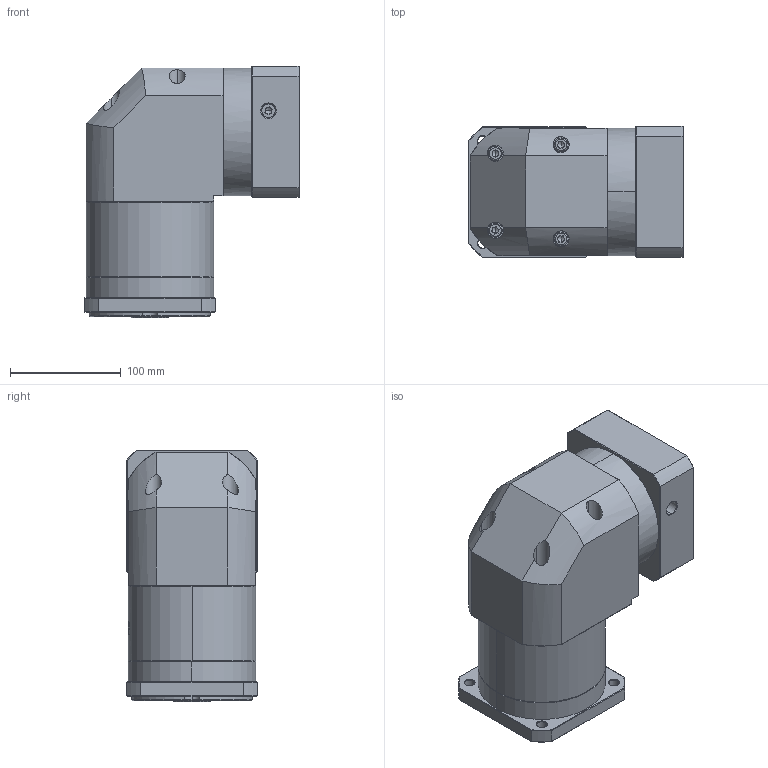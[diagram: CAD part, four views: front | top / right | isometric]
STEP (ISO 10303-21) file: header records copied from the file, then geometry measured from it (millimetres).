
FILE_DESCRIPTION (( 'STEP AP214' ), '1' );
FILE_NAME ('ZFR120A-K25-L2-P2-19-95-115-M8.step', '2023-08-27T08:14:57', ( '' ), ( '' ), 'SwSTEP 2.0', 'SolidWorks 2016', '' );
FILE_SCHEMA (( 'AUTOMOTIVE_DESIGN' ));
Length unit declared in the file: millimetre
Products named in the file (1): ZFR120A-K25-L2-P2-19-95-115-M8
Bounding box: 193.9 x 118 x 226.5 mm (x, y, z)
Volume: 3147495 mm3; surface area: 252237 mm2
Topology: 6 solids, 6 shells, 2208 faces, 5841 edges, 3738 vertices
Faces by surface type: plane 1054, bspline 415, cylinder 401, cone 330, torus 8
Entity records: 118775 total; most frequent: CARTESIAN_POINT 45065, ORIENTED_EDGE 11626, DIRECTION 8453, EDGE_CURVE 5813, VERTEX_POINT 3738, LINE 3105, VECTOR 3105, AXIS2_PLACEMENT_3D 2674
